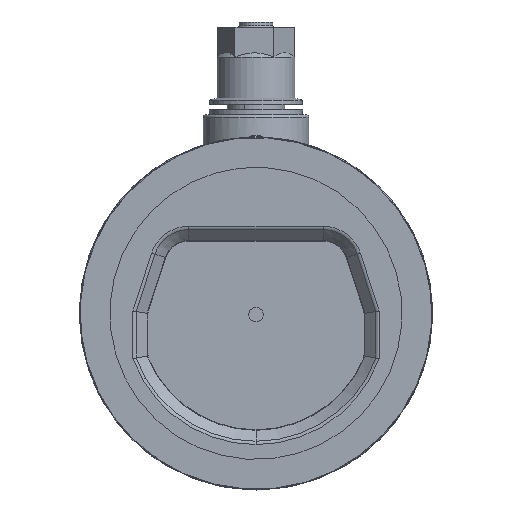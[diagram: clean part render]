
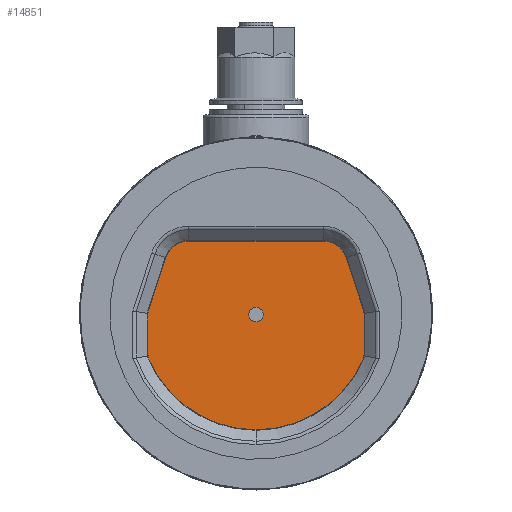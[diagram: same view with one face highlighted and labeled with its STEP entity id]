
A CAD part, front view. The second image highlights one B-rep face of the part: STEP entity #14851.
In plain terms, the highlighted planar face has unit normal (0, -1, 0).
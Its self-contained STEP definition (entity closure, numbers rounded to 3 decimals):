
#586 = LINE ( 'NONE', #19406, #59350 ) ;
#659 = VERTEX_POINT ( 'NONE', #10532 ) ;
#1285 = VECTOR ( 'NONE', #82130, 1000. ) ;
#2343 = AXIS2_PLACEMENT_3D ( 'NONE', #62990, #29517, #69431 ) ;
#4899 = LINE ( 'NONE', #16300, #10142 ) ;
#6961 = CIRCLE ( 'NONE', #84226, 1.5 ) ;
#7166 = AXIS2_PLACEMENT_3D ( 'NONE', #49170, #56510, #83306 ) ;
#8388 = EDGE_CURVE ( 'NONE', #16082, #63421, #64399, .T. ) ;
#8608 = ORIENTED_EDGE ( 'NONE', *, *, #56722, .F. ) ;
#9552 = DIRECTION ( 'NONE',  ( 0., -1., 0. ) ) ;
#10142 = VECTOR ( 'NONE', #30018, 1000. ) ;
#10532 = CARTESIAN_POINT ( 'NONE',  ( -42.386, 26.2, 47.764 ) ) ;
#11287 = CARTESIAN_POINT ( 'NONE',  ( 42.386, 26.2, 47.764 ) ) ;
#11931 = CARTESIAN_POINT ( 'NONE',  ( 71., 26.2, -28.347 ) ) ;
#13207 = ORIENTED_EDGE ( 'NONE', *, *, #39413, .T. ) ;
#14620 = CARTESIAN_POINT ( 'NONE',  ( 72.5, 26.2, -1.553 ) ) ;
#14851 = ADVANCED_FACE ( 'NONE', ( #56474, #27026 ), #18812, .F. ) ;
#14995 = ORIENTED_EDGE ( 'NONE', *, *, #39726, .T. ) ;
#15072 = ORIENTED_EDGE ( 'NONE', *, *, #54168, .T. ) ;
#16082 = VERTEX_POINT ( 'NONE', #72511 ) ;
#16300 = CARTESIAN_POINT ( 'NONE',  ( -52.836, 26.2, 59.203 ) ) ;
#16429 = VERTEX_POINT ( 'NONE', #63359 ) ;
#16579 = EDGE_CURVE ( 'NONE', #75595, #53289, #85208, .T. ) ;
#17006 = CIRCLE ( 'NONE', #45495, 4.5 ) ;
#18166 = EDGE_CURVE ( 'NONE', #53289, #16429, #86146, .T. ) ;
#18812 = PLANE ( 'NONE',  #53183 ) ;
#19112 = DIRECTION ( 'NONE',  ( -0.309, 0., 0.951 ) ) ;
#19406 = CARTESIAN_POINT ( 'NONE',  ( 60.931, 26.2, 34.29 ) ) ;
#19675 = VECTOR ( 'NONE', #80255, 1000. ) ;
#20799 = CARTESIAN_POINT ( 'NONE',  ( 72.5, 26.2, 28.264 ) ) ;
#21994 = ORIENTED_EDGE ( 'NONE', *, *, #68717, .T. ) ;
#22135 = CIRCLE ( 'NONE', #34369, 19.5 ) ;
#22238 = LINE ( 'NONE', #80935, #43261 ) ;
#22266 = CARTESIAN_POINT ( 'NONE',  ( 72.427, 26.2, -1.089 ) ) ;
#23664 = DIRECTION ( 'NONE',  ( 0., -1., 0. ) ) ;
#24688 = DIRECTION ( 'NONE',  ( -1., 0., 0. ) ) ;
#25816 = VERTEX_POINT ( 'NONE', #22266 ) ;
#26212 = DIRECTION ( 'NONE',  ( 0., -1., 0. ) ) ;
#27026 = FACE_BOUND ( 'NONE', #32239, .T. ) ;
#28313 = VERTEX_POINT ( 'NONE', #14620 ) ;
#29517 = DIRECTION ( 'NONE',  ( 0., -1., 0. ) ) ;
#30018 = DIRECTION ( 'NONE',  ( -0.309, 0., -0.951 ) ) ;
#30653 = CARTESIAN_POINT ( 'NONE',  ( 4.5, 26.2, -0.736 ) ) ;
#32239 = EDGE_LOOP ( 'NONE', ( #8608, #80597 ) ) ;
#33402 = CARTESIAN_POINT ( 'NONE',  ( 0., 26.2, -1.236 ) ) ;
#33918 = EDGE_CURVE ( 'NONE', #61547, #75595, #84492, .T. ) ;
#34170 = VERTEX_POINT ( 'NONE', #65302 ) ;
#34369 = AXIS2_PLACEMENT_3D ( 'NONE', #36829, #9552, #56426 ) ;
#35564 = ORIENTED_EDGE ( 'NONE', *, *, #74683, .T. ) ;
#35774 = CARTESIAN_POINT ( 'NONE',  ( -71., 26.2, -1.553 ) ) ;
#36285 = DIRECTION ( 'NONE',  ( -1., 0., 0. ) ) ;
#36829 = CARTESIAN_POINT ( 'NONE',  ( -42.386, 26.2, 28.264 ) ) ;
#38081 = ORIENTED_EDGE ( 'NONE', *, *, #18166, .T. ) ;
#38847 = CARTESIAN_POINT ( 'NONE',  ( 0., 26.2, -0.736 ) ) ;
#39413 = EDGE_CURVE ( 'NONE', #659, #34170, #22135, .T. ) ;
#39726 = EDGE_CURVE ( 'NONE', #80411, #61467, #73573, .T. ) ;
#40315 = CARTESIAN_POINT ( 'NONE',  ( -72.5, 26.2, -1.553 ) ) ;
#41898 = VERTEX_POINT ( 'NONE', #56111 ) ;
#42284 = LINE ( 'NONE', #20799, #1285 ) ;
#43261 = VECTOR ( 'NONE', #67678, 1000. ) ;
#45495 = AXIS2_PLACEMENT_3D ( 'NONE', #38847, #26212, #86783 ) ;
#45621 = DIRECTION ( 'NONE',  ( -1., 0., 0. ) ) ;
#48523 = ORIENTED_EDGE ( 'NONE', *, *, #64924, .T. ) ;
#49170 = CARTESIAN_POINT ( 'NONE',  ( -71., 26.2, -28.347 ) ) ;
#51444 = CARTESIAN_POINT ( 'NONE',  ( 72.401, 26.2, -28.882 ) ) ;
#52328 = DIRECTION ( 'NONE',  ( 0., -1., 0. ) ) ;
#52599 = ORIENTED_EDGE ( 'NONE', *, *, #33918, .T. ) ;
#53183 = AXIS2_PLACEMENT_3D ( 'NONE', #66018, #58682, #24688 ) ;
#53289 = VERTEX_POINT ( 'NONE', #51444 ) ;
#53891 = DIRECTION ( 'NONE',  ( 0., -1., 0. ) ) ;
#54168 = EDGE_CURVE ( 'NONE', #16429, #28313, #42284, .T. ) ;
#54355 = CARTESIAN_POINT ( 'NONE',  ( 42.386, 26.2, 47.764 ) ) ;
#55369 = EDGE_CURVE ( 'NONE', #28313, #25816, #74862, .T. ) ;
#56111 = CARTESIAN_POINT ( 'NONE',  ( -72.427, 26.2, -1.089 ) ) ;
#56426 = DIRECTION ( 'NONE',  ( -1., 0., 0. ) ) ;
#56474 = FACE_OUTER_BOUND ( 'NONE', #82622, .T. ) ;
#56510 = DIRECTION ( 'NONE',  ( 0., -1., 0. ) ) ;
#56722 = EDGE_CURVE ( 'NONE', #63421, #16082, #17006, .T. ) ;
#58682 = DIRECTION ( 'NONE',  ( 0., 1., 0. ) ) ;
#59350 = VECTOR ( 'NONE', #19112, 1000. ) ;
#61467 = VERTEX_POINT ( 'NONE', #11287 ) ;
#61547 = VERTEX_POINT ( 'NONE', #66625 ) ;
#62990 = CARTESIAN_POINT ( 'NONE',  ( 42.386, 26.2, 28.264 ) ) ;
#63359 = CARTESIAN_POINT ( 'NONE',  ( 72.5, 26.2, -28.347 ) ) ;
#63421 = VERTEX_POINT ( 'NONE', #30653 ) ;
#64399 = CIRCLE ( 'NONE', #86499, 4.5 ) ;
#64465 = EDGE_CURVE ( 'NONE', #34170, #41898, #4899, .T. ) ;
#64924 = EDGE_CURVE ( 'NONE', #25816, #80411, #586, .T. ) ;
#64933 = ORIENTED_EDGE ( 'NONE', *, *, #16579, .T. ) ;
#65112 = EDGE_CURVE ( 'NONE', #41898, #66425, #6961, .T. ) ;
#65197 = AXIS2_PLACEMENT_3D ( 'NONE', #33402, #66852, #75119 ) ;
#65259 = ORIENTED_EDGE ( 'NONE', *, *, #64465, .T. ) ;
#65302 = CARTESIAN_POINT ( 'NONE',  ( -60.931, 26.2, 34.29 ) ) ;
#65321 = AXIS2_PLACEMENT_3D ( 'NONE', #11931, #52328, #45621 ) ;
#65391 = CARTESIAN_POINT ( 'NONE',  ( 71., 26.2, -1.553 ) ) ;
#66018 = CARTESIAN_POINT ( 'NONE',  ( 42.386, 26.2, 28.264 ) ) ;
#66425 = VERTEX_POINT ( 'NONE', #40315 ) ;
#66625 = CARTESIAN_POINT ( 'NONE',  ( -72.5, 26.2, -28.347 ) ) ;
#66852 = DIRECTION ( 'NONE',  ( 0., -1., 0. ) ) ;
#67621 = ORIENTED_EDGE ( 'NONE', *, *, #65112, .T. ) ;
#67678 = DIRECTION ( 'NONE',  ( 0., 0., -1. ) ) ;
#68717 = EDGE_CURVE ( 'NONE', #66425, #61547, #22238, .T. ) ;
#68858 = DIRECTION ( 'NONE',  ( -1., 0., 0. ) ) ;
#69198 = DIRECTION ( 'NONE',  ( 0., -1., 0. ) ) ;
#69431 = DIRECTION ( 'NONE',  ( -1., 0., 0. ) ) ;
#70375 = CARTESIAN_POINT ( 'NONE',  ( 60.931, 26.2, 34.29 ) ) ;
#71290 = ORIENTED_EDGE ( 'NONE', *, *, #55369, .T. ) ;
#71849 = AXIS2_PLACEMENT_3D ( 'NONE', #65391, #53891, #68858 ) ;
#72511 = CARTESIAN_POINT ( 'NONE',  ( -4.5, 26.2, -0.736 ) ) ;
#73222 = LINE ( 'NONE', #54355, #19675 ) ;
#73573 = CIRCLE ( 'NONE', #2343, 19.5 ) ;
#74683 = EDGE_CURVE ( 'NONE', #61467, #659, #73222, .T. ) ;
#74862 = CIRCLE ( 'NONE', #71849, 1.5 ) ;
#75119 = DIRECTION ( 'NONE',  ( -1., 0., 0. ) ) ;
#75439 = DIRECTION ( 'NONE',  ( -1., 0., 0. ) ) ;
#75595 = VERTEX_POINT ( 'NONE', #84806 ) ;
#80255 = DIRECTION ( 'NONE',  ( -1., 0., 0. ) ) ;
#80411 = VERTEX_POINT ( 'NONE', #70375 ) ;
#80597 = ORIENTED_EDGE ( 'NONE', *, *, #8388, .F. ) ;
#80935 = CARTESIAN_POINT ( 'NONE',  ( -72.5, 26.2, 28.264 ) ) ;
#82130 = DIRECTION ( 'NONE',  ( 0., 0., 1. ) ) ;
#82622 = EDGE_LOOP ( 'NONE', ( #35564, #13207, #65259, #67621, #21994, #52599, #64933, #38081, #15072, #71290, #48523, #14995 ) ) ;
#83291 = CARTESIAN_POINT ( 'NONE',  ( 0., 26.2, -0.736 ) ) ;
#83306 = DIRECTION ( 'NONE',  ( -1., 0., 0. ) ) ;
#84226 = AXIS2_PLACEMENT_3D ( 'NONE', #35774, #69198, #75439 ) ;
#84492 = CIRCLE ( 'NONE', #7166, 1.5 ) ;
#84806 = CARTESIAN_POINT ( 'NONE',  ( -72.401, 26.2, -28.882 ) ) ;
#85208 = CIRCLE ( 'NONE', #65197, 77.5 ) ;
#86146 = CIRCLE ( 'NONE', #65321, 1.5 ) ;
#86499 = AXIS2_PLACEMENT_3D ( 'NONE', #83291, #23664, #36285 ) ;
#86783 = DIRECTION ( 'NONE',  ( -1., 0., 0. ) ) ;
